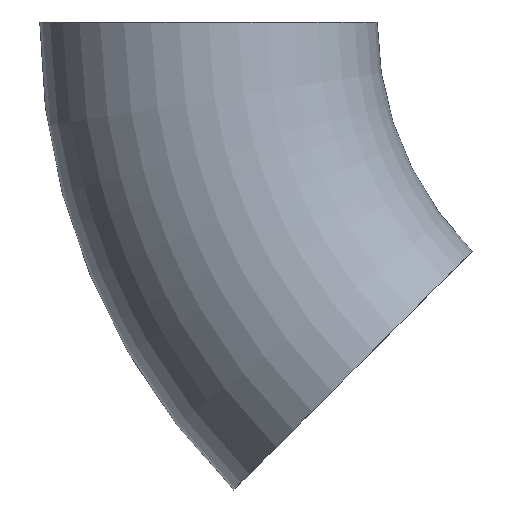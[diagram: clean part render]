
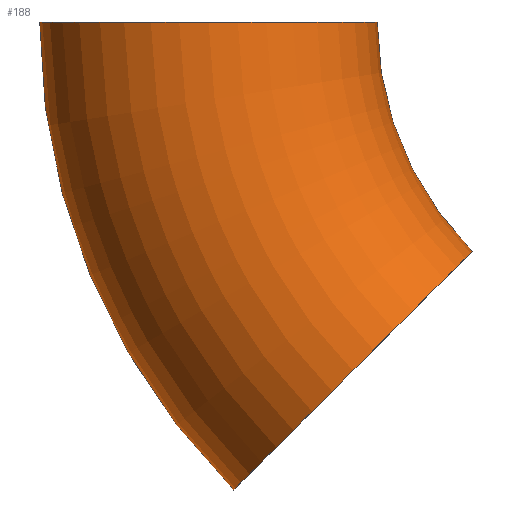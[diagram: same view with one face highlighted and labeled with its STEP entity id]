
A CAD part, front view. The second image highlights one B-rep face of the part: STEP entity #188.
In plain terms, the highlighted toroidal (fillet/blend) face has major radius 225 mm and minor radius 77 mm.
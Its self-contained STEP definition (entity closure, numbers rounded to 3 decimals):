
#1 = EDGE_CURVE ( 'NONE', #7, #79, #25, .T. ) ;
#5 = DIRECTION ( 'NONE',  ( 0., 1., 0. ) ) ;
#7 = VERTEX_POINT ( 'NONE', #111 ) ;
#14 = ORIENTED_EDGE ( 'NONE', *, *, #41, .T. ) ;
#15 = CARTESIAN_POINT ( 'NONE',  ( -213.546, 0., -213.546 ) ) ;
#24 = DIRECTION ( 'NONE',  ( 0., 0., 1. ) ) ;
#25 = CIRCLE ( 'NONE', #98, 148. ) ;
#26 = CARTESIAN_POINT ( 'NONE',  ( 0., 0., 0. ) ) ;
#35 = ORIENTED_EDGE ( 'NONE', *, *, #158, .F. ) ;
#36 = TOROIDAL_SURFACE ( 'NONE', #157, 225., 77. ) ;
#37 = DIRECTION ( 'NONE',  ( 0., 1., 0. ) ) ;
#41 = EDGE_CURVE ( 'NONE', #50, #7, #119, .T. ) ;
#47 = DIRECTION ( 'NONE',  ( 0., 0., 1. ) ) ;
#50 = VERTEX_POINT ( 'NONE', #15 ) ;
#55 = EDGE_LOOP ( 'NONE', ( #122, #14, #156, #35 ) ) ;
#57 = DIRECTION ( 'NONE',  ( 0.707, 0., 0.707 ) ) ;
#63 = DIRECTION ( 'NONE',  ( 0., 1., 0. ) ) ;
#79 = VERTEX_POINT ( 'NONE', #231 ) ;
#80 = DIRECTION ( 'NONE',  ( 0., 0., 1. ) ) ;
#82 = CIRCLE ( 'NONE', #163, 302. ) ;
#97 = DIRECTION ( 'NONE',  ( -0.707, 0., 0.707 ) ) ;
#98 = AXIS2_PLACEMENT_3D ( 'NONE', #252, #37, #80 ) ;
#103 = DIRECTION ( 'NONE',  ( 1., 0., 0. ) ) ;
#111 = CARTESIAN_POINT ( 'NONE',  ( -104.652, 0., -104.652 ) ) ;
#119 = CIRCLE ( 'NONE', #137, 77. ) ;
#122 = ORIENTED_EDGE ( 'NONE', *, *, #154, .F. ) ;
#137 = AXIS2_PLACEMENT_3D ( 'NONE', #227, #97, #57 ) ;
#154 = EDGE_CURVE ( 'NONE', #50, #159, #82, .T. ) ;
#156 = ORIENTED_EDGE ( 'NONE', *, *, #1, .T. ) ;
#157 = AXIS2_PLACEMENT_3D ( 'NONE', #210, #63, #47 ) ;
#158 = EDGE_CURVE ( 'NONE', #159, #79, #239, .T. ) ;
#159 = VERTEX_POINT ( 'NONE', #237 ) ;
#163 = AXIS2_PLACEMENT_3D ( 'NONE', #26, #5, #213 ) ;
#174 = FACE_OUTER_BOUND ( 'NONE', #55, .T. ) ;
#188 = ADVANCED_FACE ( 'NONE', ( #174 ), #36, .T. ) ;
#191 = CARTESIAN_POINT ( 'NONE',  ( -225., 0., 0. ) ) ;
#210 = CARTESIAN_POINT ( 'NONE',  ( 0., 0., 0. ) ) ;
#213 = DIRECTION ( 'NONE',  ( 0., 0., 1. ) ) ;
#227 = CARTESIAN_POINT ( 'NONE',  ( -159.099, 0., -159.099 ) ) ;
#231 = CARTESIAN_POINT ( 'NONE',  ( -148., 0., 0. ) ) ;
#234 = AXIS2_PLACEMENT_3D ( 'NONE', #191, #24, #103 ) ;
#237 = CARTESIAN_POINT ( 'NONE',  ( -302., 0., 0. ) ) ;
#239 = CIRCLE ( 'NONE', #234, 77. ) ;
#252 = CARTESIAN_POINT ( 'NONE',  ( 0., 0., 0. ) ) ;
